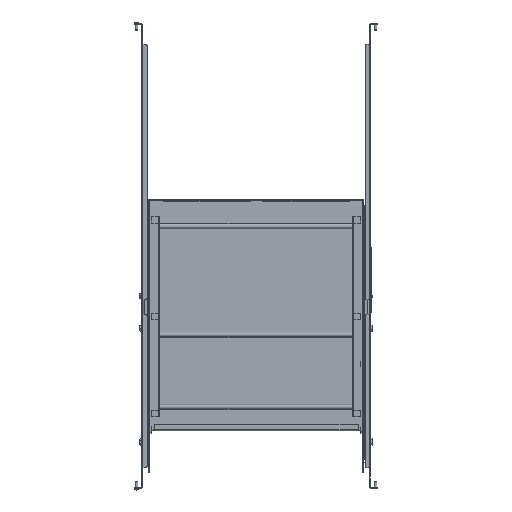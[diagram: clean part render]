
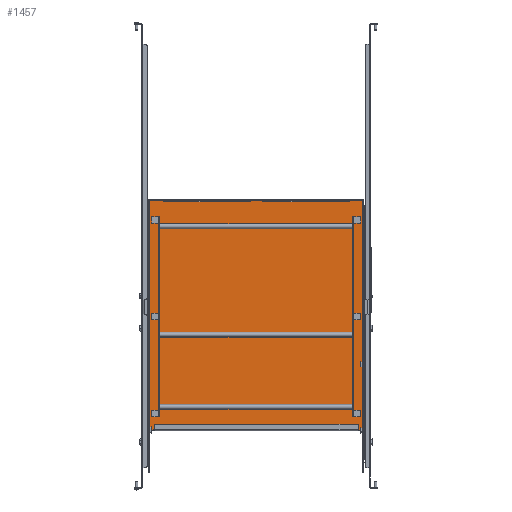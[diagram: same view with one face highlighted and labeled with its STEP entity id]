
A CAD part, top view. The second image highlights one B-rep face of the part: STEP entity #1457.
In plain terms, the highlighted planar face has unit normal (0, 0, 1).
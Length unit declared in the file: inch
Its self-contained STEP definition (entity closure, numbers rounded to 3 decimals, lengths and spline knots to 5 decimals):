
#1354=CARTESIAN_POINT('',(8.33875,10.59375,0.06));
#1355=DIRECTION('',(0.0,0.0,1.0));
#1356=DIRECTION('',(1.0,0.0,0.0));
#1357=AXIS2_PLACEMENT_3D('',#1354,#1355,#1356);
#1358=PLANE('',#1357);
#1359=CARTESIAN_POINT('',(16.3015,3.341,0.06));
#1360=VERTEX_POINT('',#1359);
#1361=CARTESIAN_POINT('',(16.3015,3.25,0.06));
#1362=VERTEX_POINT('',#1361);
#1363=CARTESIAN_POINT('',(16.3015,3.341,0.06));
#1364=DIRECTION('',(0.0,-1.0,0.0));
#1365=VECTOR('',#1364,0.091);
#1366=LINE('',#1363,#1365);
#1367=EDGE_CURVE('',#1360,#1362,#1366,.T.);
#1368=ORIENTED_EDGE('',*,*,#1367,.T.);
#1369=CARTESIAN_POINT('',(16.6165,3.25,0.06));
#1370=VERTEX_POINT('',#1369);
#1371=CARTESIAN_POINT('',(16.3015,3.25,0.06));
#1372=DIRECTION('',(1.0,0.0,0.0));
#1373=VECTOR('',#1372,0.315);
#1374=LINE('',#1371,#1373);
#1375=EDGE_CURVE('',#1362,#1370,#1374,.T.);
#1376=ORIENTED_EDGE('',*,*,#1375,.T.);
#1377=CARTESIAN_POINT('',(16.6165,21.1265,0.06));
#1378=VERTEX_POINT('',#1377);
#1379=CARTESIAN_POINT('',(16.6165,3.25,0.06));
#1380=DIRECTION('',(0.0,1.0,0.0));
#1381=VECTOR('',#1380,17.8765);
#1382=LINE('',#1379,#1381);
#1383=EDGE_CURVE('',#1370,#1378,#1382,.T.);
#1384=ORIENTED_EDGE('',*,*,#1383,.T.);
#1385=CARTESIAN_POINT('',(0.061,21.1265,0.06));
#1386=VERTEX_POINT('',#1385);
#1387=CARTESIAN_POINT('',(16.6165,21.1265,0.06));
#1388=DIRECTION('',(-1.0,0.0,0.0));
#1389=VECTOR('',#1388,16.5555);
#1390=LINE('',#1387,#1389);
#1391=EDGE_CURVE('',#1378,#1386,#1390,.T.);
#1392=ORIENTED_EDGE('',*,*,#1391,.T.);
#1393=CARTESIAN_POINT('',(0.061,3.25,0.06));
#1394=VERTEX_POINT('',#1393);
#1395=CARTESIAN_POINT('',(0.061,21.1265,0.06));
#1396=DIRECTION('',(0.0,-1.0,0.0));
#1397=VECTOR('',#1396,17.8765);
#1398=LINE('',#1395,#1397);
#1399=EDGE_CURVE('',#1386,#1394,#1398,.T.);
#1400=ORIENTED_EDGE('',*,*,#1399,.T.);
#1401=CARTESIAN_POINT('',(0.376,3.25,0.06));
#1402=VERTEX_POINT('',#1401);
#1403=CARTESIAN_POINT('',(0.061,3.25,0.06));
#1404=DIRECTION('',(1.0,0.0,0.0));
#1405=VECTOR('',#1404,0.315);
#1406=LINE('',#1403,#1405);
#1407=EDGE_CURVE('',#1394,#1402,#1406,.T.);
#1408=ORIENTED_EDGE('',*,*,#1407,.T.);
#1409=CARTESIAN_POINT('',(0.376,3.341,0.06));
#1410=VERTEX_POINT('',#1409);
#1411=CARTESIAN_POINT('',(0.376,3.25,0.06));
#1412=DIRECTION('',(0.0,1.0,0.0));
#1413=VECTOR('',#1412,0.091);
#1414=LINE('',#1411,#1413);
#1415=EDGE_CURVE('',#1402,#1410,#1414,.T.);
#1416=ORIENTED_EDGE('',*,*,#1415,.T.);
#1417=CARTESIAN_POINT('',(0.436,3.341,0.06));
#1418=VERTEX_POINT('',#1417);
#1419=CARTESIAN_POINT('',(0.376,3.341,0.06));
#1420=DIRECTION('',(1.0,0.0,0.0));
#1421=VECTOR('',#1420,0.06);
#1422=LINE('',#1419,#1421);
#1423=EDGE_CURVE('',#1410,#1418,#1422,.T.);
#1424=ORIENTED_EDGE('',*,*,#1423,.T.);
#1425=CARTESIAN_POINT('',(0.436,3.311,0.06));
#1426=VERTEX_POINT('',#1425);
#1427=CARTESIAN_POINT('',(0.436,3.341,0.06));
#1428=DIRECTION('',(0.0,-1.0,0.0));
#1429=VECTOR('',#1428,0.03);
#1430=LINE('',#1427,#1429);
#1431=EDGE_CURVE('',#1418,#1426,#1430,.T.);
#1432=ORIENTED_EDGE('',*,*,#1431,.T.);
#1433=CARTESIAN_POINT('',(16.2415,3.311,0.06));
#1434=VERTEX_POINT('',#1433);
#1435=CARTESIAN_POINT('',(0.436,3.311,0.06));
#1436=DIRECTION('',(1.0,0.0,0.0));
#1437=VECTOR('',#1436,15.8055);
#1438=LINE('',#1435,#1437);
#1439=EDGE_CURVE('',#1426,#1434,#1438,.T.);
#1440=ORIENTED_EDGE('',*,*,#1439,.T.);
#1441=CARTESIAN_POINT('',(16.2415,3.341,0.06));
#1442=VERTEX_POINT('',#1441);
#1443=CARTESIAN_POINT('',(16.2415,3.311,0.06));
#1444=DIRECTION('',(0.0,1.0,0.0));
#1445=VECTOR('',#1444,0.03);
#1446=LINE('',#1443,#1445);
#1447=EDGE_CURVE('',#1434,#1442,#1446,.T.);
#1448=ORIENTED_EDGE('',*,*,#1447,.T.);
#1449=CARTESIAN_POINT('',(16.2415,3.341,0.06));
#1450=DIRECTION('',(1.0,0.0,0.0));
#1451=VECTOR('',#1450,0.06);
#1452=LINE('',#1449,#1451);
#1453=EDGE_CURVE('',#1442,#1360,#1452,.T.);
#1454=ORIENTED_EDGE('',*,*,#1453,.T.);
#1455=EDGE_LOOP('',(#1368,#1376,#1384,#1392,#1400,#1408,#1416,#1424,#1432,#1440,#1448,#1454));
#1456=FACE_OUTER_BOUND('',#1455,.T.);
#1457=ADVANCED_FACE('',(#1456),#1358,.T.);
